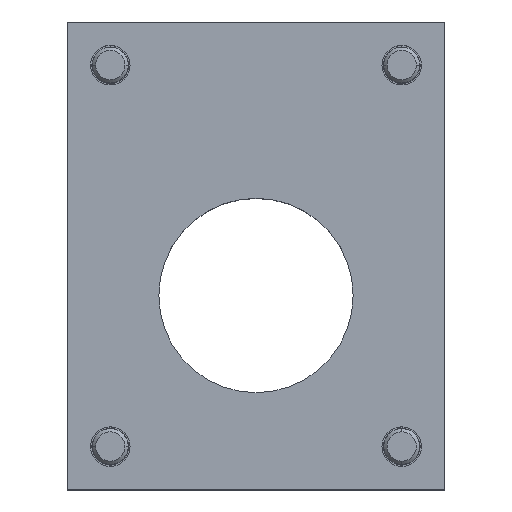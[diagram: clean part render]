
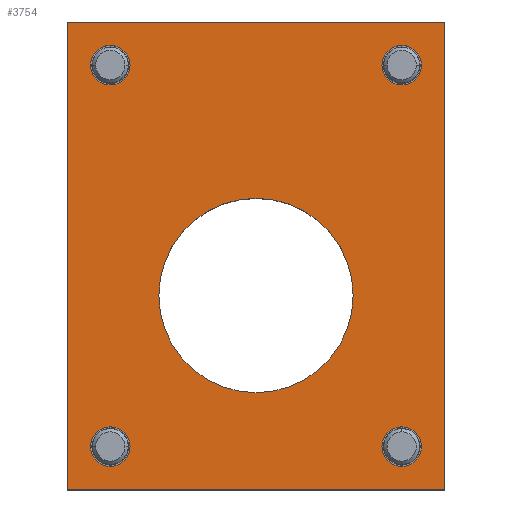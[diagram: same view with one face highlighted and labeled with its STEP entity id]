
A CAD part, top view. The second image highlights one B-rep face of the part: STEP entity #3754.
In plain terms, the highlighted planar face has unit normal (0, 0, 1).
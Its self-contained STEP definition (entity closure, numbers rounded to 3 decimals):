
#39 = CIRCLE ( 'NONE', #1087, 27. ) ;
#64 = VERTEX_POINT ( 'NONE', #2947 ) ;
#75 = DIRECTION ( 'NONE',  ( 0., -1., 0. ) ) ;
#91 = ORIENTED_EDGE ( 'NONE', *, *, #4035, .F. ) ;
#97 = ORIENTED_EDGE ( 'NONE', *, *, #1489, .T. ) ;
#202 = ORIENTED_EDGE ( 'NONE', *, *, #2491, .T. ) ;
#215 = DIRECTION ( 'NONE',  ( 0., 0., -1. ) ) ;
#299 = LINE ( 'NONE', #1004, #348 ) ;
#327 = DIRECTION ( 'NONE',  ( 0., -1., 0. ) ) ;
#348 = VECTOR ( 'NONE', #2988, 1000. ) ;
#413 = CIRCLE ( 'NONE', #2101, 27. ) ;
#420 = EDGE_LOOP ( 'NONE', ( #1623, #97 ) ) ;
#465 = EDGE_LOOP ( 'NONE', ( #1002, #2739 ) ) ;
#476 = DIRECTION ( 'NONE',  ( 0., 1., 0. ) ) ;
#528 = CIRCLE ( 'NONE', #2221, 5.5 ) ;
#588 = EDGE_LOOP ( 'NONE', ( #2018, #2139 ) ) ;
#602 = VERTEX_POINT ( 'NONE', #4205 ) ;
#616 = EDGE_CURVE ( 'NONE', #2815, #3461, #1659, .T. ) ;
#662 = ORIENTED_EDGE ( 'NONE', *, *, #2145, .T. ) ;
#724 = ORIENTED_EDGE ( 'NONE', *, *, #2129, .T. ) ;
#760 = AXIS2_PLACEMENT_3D ( 'NONE', #3596, #1254, #1924 ) ;
#805 = CARTESIAN_POINT ( 'NONE',  ( -40.5, 64., -32. ) ) ;
#821 = EDGE_LOOP ( 'NONE', ( #202, #724 ) ) ;
#943 = DIRECTION ( 'NONE',  ( 0., 1., 0. ) ) ;
#952 = DIRECTION ( 'NONE',  ( 0., 0., -1. ) ) ;
#955 = CIRCLE ( 'NONE', #2649, 5.5 ) ;
#969 = CIRCLE ( 'NONE', #760, 5.5 ) ;
#1002 = ORIENTED_EDGE ( 'NONE', *, *, #4293, .T. ) ;
#1004 = CARTESIAN_POINT ( 'NONE',  ( -52.5, 76., -32. ) ) ;
#1023 = CIRCLE ( 'NONE', #1575, 5.5 ) ;
#1053 = CARTESIAN_POINT ( 'NONE',  ( 0., 11., -32. ) ) ;
#1074 = LINE ( 'NONE', #1759, #3481 ) ;
#1087 = AXIS2_PLACEMENT_3D ( 'NONE', #3935, #1216, #943 ) ;
#1136 = CARTESIAN_POINT ( 'NONE',  ( 40.5, 58.5, -32. ) ) ;
#1176 = CARTESIAN_POINT ( 'NONE',  ( -40.5, -42., -32. ) ) ;
#1205 = DIRECTION ( 'NONE',  ( 0., 0., -1. ) ) ;
#1216 = DIRECTION ( 'NONE',  ( 0., 0., -1. ) ) ;
#1224 = DIRECTION ( 'NONE',  ( 0., 1., 0. ) ) ;
#1254 = DIRECTION ( 'NONE',  ( 0., 0., -1. ) ) ;
#1274 = DIRECTION ( 'NONE',  ( 0., 1., 0. ) ) ;
#1393 = EDGE_CURVE ( 'NONE', #2220, #64, #413, .T. ) ;
#1419 = DIRECTION ( 'NONE',  ( 0., 1., 0. ) ) ;
#1462 = DIRECTION ( 'NONE',  ( 0., 0., -1. ) ) ;
#1466 = ORIENTED_EDGE ( 'NONE', *, *, #2513, .F. ) ;
#1489 = EDGE_CURVE ( 'NONE', #2006, #2370, #969, .T. ) ;
#1505 = CARTESIAN_POINT ( 'NONE',  ( 40.5, -47.5, -32. ) ) ;
#1549 = CARTESIAN_POINT ( 'NONE',  ( -40.5, -47.5, -32. ) ) ;
#1575 = AXIS2_PLACEMENT_3D ( 'NONE', #1176, #3914, #1606 ) ;
#1606 = DIRECTION ( 'NONE',  ( 0., 1., 0. ) ) ;
#1623 = ORIENTED_EDGE ( 'NONE', *, *, #2613, .T. ) ;
#1659 = CIRCLE ( 'NONE', #2510, 5.5 ) ;
#1662 = FACE_BOUND ( 'NONE', #3123, .T. ) ;
#1706 = EDGE_CURVE ( 'NONE', #3734, #602, #299, .T. ) ;
#1709 = EDGE_CURVE ( 'NONE', #602, #3045, #4323, .T. ) ;
#1759 = CARTESIAN_POINT ( 'NONE',  ( -52.5, -54., -32. ) ) ;
#1803 = CARTESIAN_POINT ( 'NONE',  ( 52.5, 76., -32. ) ) ;
#1840 = DIRECTION ( 'NONE',  ( 0., 0., -1. ) ) ;
#1924 = DIRECTION ( 'NONE',  ( 0., 1., 0. ) ) ;
#2006 = VERTEX_POINT ( 'NONE', #1136 ) ;
#2018 = ORIENTED_EDGE ( 'NONE', *, *, #2150, .T. ) ;
#2020 = AXIS2_PLACEMENT_3D ( 'NONE', #3013, #3311, #1274 ) ;
#2026 = FACE_BOUND ( 'NONE', #821, .T. ) ;
#2035 = EDGE_CURVE ( 'NONE', #2202, #3186, #528, .T. ) ;
#2101 = AXIS2_PLACEMENT_3D ( 'NONE', #4186, #1205, #476 ) ;
#2117 = ORIENTED_EDGE ( 'NONE', *, *, #1709, .F. ) ;
#2129 = EDGE_CURVE ( 'NONE', #3703, #3506, #2365, .T. ) ;
#2139 = ORIENTED_EDGE ( 'NONE', *, *, #1393, .T. ) ;
#2145 = EDGE_CURVE ( 'NONE', #3461, #2815, #1023, .T. ) ;
#2150 = EDGE_CURVE ( 'NONE', #64, #2220, #39, .T. ) ;
#2172 = VECTOR ( 'NONE', #2666, 1000. ) ;
#2202 = VERTEX_POINT ( 'NONE', #1505 ) ;
#2206 = CARTESIAN_POINT ( 'NONE',  ( -40.5, -42., -32. ) ) ;
#2220 = VERTEX_POINT ( 'NONE', #2538 ) ;
#2221 = AXIS2_PLACEMENT_3D ( 'NONE', #3164, #1840, #2460 ) ;
#2274 = DIRECTION ( 'NONE',  ( 0., 1., 0. ) ) ;
#2292 = VECTOR ( 'NONE', #75, 1000. ) ;
#2293 = AXIS2_PLACEMENT_3D ( 'NONE', #2626, #215, #2274 ) ;
#2352 = ORIENTED_EDGE ( 'NONE', *, *, #1706, .F. ) ;
#2355 = CARTESIAN_POINT ( 'NONE',  ( -52.5, -54., -32. ) ) ;
#2365 = CIRCLE ( 'NONE', #2293, 5.5 ) ;
#2370 = VERTEX_POINT ( 'NONE', #2675 ) ;
#2460 = DIRECTION ( 'NONE',  ( 0., 1., 0. ) ) ;
#2491 = EDGE_CURVE ( 'NONE', #3506, #3703, #2574, .T. ) ;
#2510 = AXIS2_PLACEMENT_3D ( 'NONE', #2206, #2556, #3247 ) ;
#2513 = EDGE_CURVE ( 'NONE', #3795, #3734, #1074, .T. ) ;
#2533 = CARTESIAN_POINT ( 'NONE',  ( -40.5, 69.5, -32. ) ) ;
#2538 = CARTESIAN_POINT ( 'NONE',  ( 0., -27., -32. ) ) ;
#2556 = DIRECTION ( 'NONE',  ( 0., 0., -1. ) ) ;
#2569 = AXIS2_PLACEMENT_3D ( 'NONE', #1053, #3731, #327 ) ;
#2574 = CIRCLE ( 'NONE', #2792, 5.5 ) ;
#2613 = EDGE_CURVE ( 'NONE', #2370, #2006, #3002, .T. ) ;
#2626 = CARTESIAN_POINT ( 'NONE',  ( -40.5, 64., -32. ) ) ;
#2649 = AXIS2_PLACEMENT_3D ( 'NONE', #3661, #952, #1224 ) ;
#2666 = DIRECTION ( 'NONE',  ( 1., 0., 0. ) ) ;
#2675 = CARTESIAN_POINT ( 'NONE',  ( 40.5, 69.5, -32. ) ) ;
#2689 = CARTESIAN_POINT ( 'NONE',  ( -40.5, 58.5, -32. ) ) ;
#2736 = FACE_BOUND ( 'NONE', #588, .T. ) ;
#2739 = ORIENTED_EDGE ( 'NONE', *, *, #2035, .T. ) ;
#2792 = AXIS2_PLACEMENT_3D ( 'NONE', #805, #1462, #1419 ) ;
#2815 = VERTEX_POINT ( 'NONE', #1549 ) ;
#2947 = CARTESIAN_POINT ( 'NONE',  ( 0., 27., -32. ) ) ;
#2955 = CARTESIAN_POINT ( 'NONE',  ( 40.5, -36.5, -32. ) ) ;
#2988 = DIRECTION ( 'NONE',  ( 0., 1., 0. ) ) ;
#3002 = CIRCLE ( 'NONE', #2020, 5.5 ) ;
#3013 = CARTESIAN_POINT ( 'NONE',  ( 40.5, 64., -32. ) ) ;
#3045 = VERTEX_POINT ( 'NONE', #1803 ) ;
#3113 = DIRECTION ( 'NONE',  ( -1., 0., 0. ) ) ;
#3123 = EDGE_LOOP ( 'NONE', ( #662, #3407 ) ) ;
#3164 = CARTESIAN_POINT ( 'NONE',  ( 40.5, -42., -32. ) ) ;
#3186 = VERTEX_POINT ( 'NONE', #2955 ) ;
#3247 = DIRECTION ( 'NONE',  ( 0., 1., 0. ) ) ;
#3311 = DIRECTION ( 'NONE',  ( 0., 0., -1. ) ) ;
#3354 = PLANE ( 'NONE',  #2569 ) ;
#3380 = FACE_BOUND ( 'NONE', #465, .T. ) ;
#3406 = EDGE_LOOP ( 'NONE', ( #2117, #2352, #1466, #91 ) ) ;
#3407 = ORIENTED_EDGE ( 'NONE', *, *, #616, .T. ) ;
#3451 = LINE ( 'NONE', #3727, #2292 ) ;
#3461 = VERTEX_POINT ( 'NONE', #3471 ) ;
#3471 = CARTESIAN_POINT ( 'NONE',  ( -40.5, -36.5, -32. ) ) ;
#3481 = VECTOR ( 'NONE', #3113, 1000. ) ;
#3506 = VERTEX_POINT ( 'NONE', #2533 ) ;
#3596 = CARTESIAN_POINT ( 'NONE',  ( 40.5, 64., -32. ) ) ;
#3661 = CARTESIAN_POINT ( 'NONE',  ( 40.5, -42., -32. ) ) ;
#3670 = FACE_OUTER_BOUND ( 'NONE', #3406, .T. ) ;
#3686 = CARTESIAN_POINT ( 'NONE',  ( 52.5, 76., -32. ) ) ;
#3703 = VERTEX_POINT ( 'NONE', #2689 ) ;
#3727 = CARTESIAN_POINT ( 'NONE',  ( 52.5, -54., -32. ) ) ;
#3731 = DIRECTION ( 'NONE',  ( 0., 0., 1. ) ) ;
#3734 = VERTEX_POINT ( 'NONE', #2355 ) ;
#3754 = ADVANCED_FACE ( 'NONE', ( #2736, #2026, #3380, #1662, #4036, #3670 ), #3354, .T. ) ;
#3795 = VERTEX_POINT ( 'NONE', #4001 ) ;
#3914 = DIRECTION ( 'NONE',  ( 0., 0., -1. ) ) ;
#3935 = CARTESIAN_POINT ( 'NONE',  ( 0., 0., -32. ) ) ;
#4001 = CARTESIAN_POINT ( 'NONE',  ( 52.5, -54., -32. ) ) ;
#4035 = EDGE_CURVE ( 'NONE', #3045, #3795, #3451, .T. ) ;
#4036 = FACE_BOUND ( 'NONE', #420, .T. ) ;
#4186 = CARTESIAN_POINT ( 'NONE',  ( 0., 0., -32. ) ) ;
#4205 = CARTESIAN_POINT ( 'NONE',  ( -52.5, 76., -32. ) ) ;
#4293 = EDGE_CURVE ( 'NONE', #3186, #2202, #955, .T. ) ;
#4323 = LINE ( 'NONE', #3686, #2172 ) ;
